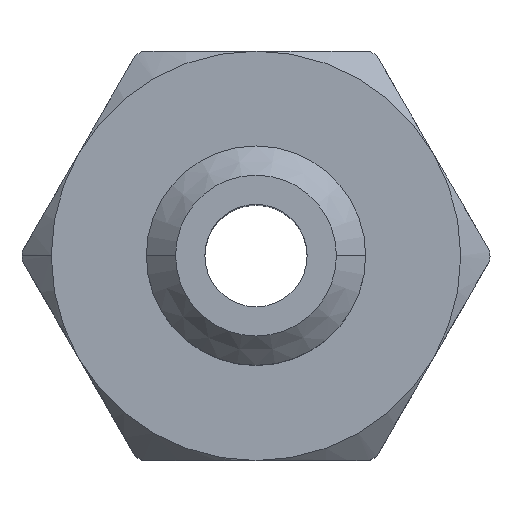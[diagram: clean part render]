
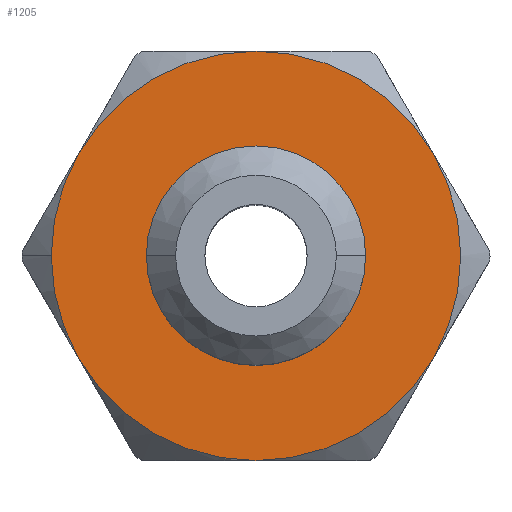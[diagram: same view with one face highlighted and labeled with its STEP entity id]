
A CAD part, top view. The second image highlights one B-rep face of the part: STEP entity #1205.
In plain terms, the highlighted planar face has unit normal (0, 0, 1).
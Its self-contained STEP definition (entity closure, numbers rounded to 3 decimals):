
#77 = AXIS2_PLACEMENT_3D ( 'NONE', #1370, #300, #118 ) ;
#92 = DIRECTION ( 'NONE',  ( 0., 0., 1. ) ) ;
#118 = DIRECTION ( 'NONE',  ( -1., 0., 0. ) ) ;
#148 = DIRECTION ( 'NONE',  ( 0., 0., -1. ) ) ;
#203 = CARTESIAN_POINT ( 'NONE',  ( 6.062, -3.5, 13. ) ) ;
#214 = CARTESIAN_POINT ( 'NONE',  ( -6.062, -3.5, 13. ) ) ;
#225 = EDGE_CURVE ( 'NONE', #471, #249, #757, .T. ) ;
#249 = VERTEX_POINT ( 'NONE', #2392 ) ;
#272 = EDGE_CURVE ( 'NONE', #1585, #727, #2329, .T. ) ;
#274 = DIRECTION ( 'NONE',  ( -1., 0., 0. ) ) ;
#300 = DIRECTION ( 'NONE',  ( 0., 0., 1. ) ) ;
#343 = CARTESIAN_POINT ( 'NONE',  ( 0., 0., 13. ) ) ;
#442 = ORIENTED_EDGE ( 'NONE', *, *, #2696, .T. ) ;
#456 = EDGE_CURVE ( 'NONE', #1601, #471, #2255, .T. ) ;
#471 = VERTEX_POINT ( 'NONE', #937 ) ;
#545 = PLANE ( 'NONE',  #1822 ) ;
#581 = ORIENTED_EDGE ( 'NONE', *, *, #1009, .T. ) ;
#621 = CARTESIAN_POINT ( 'NONE',  ( 0., 0., 13. ) ) ;
#624 = CARTESIAN_POINT ( 'NONE',  ( 0., -7., 13. ) ) ;
#701 = CIRCLE ( 'NONE', #1415, 7. ) ;
#717 = CIRCLE ( 'NONE', #2748, 7. ) ;
#726 = CARTESIAN_POINT ( 'NONE',  ( -3.75, 0., 13. ) ) ;
#727 = VERTEX_POINT ( 'NONE', #624 ) ;
#757 = CIRCLE ( 'NONE', #1968, 7. ) ;
#773 = DIRECTION ( 'NONE',  ( 0., 0., 1. ) ) ;
#793 = AXIS2_PLACEMENT_3D ( 'NONE', #343, #148, #1216 ) ;
#817 = ORIENTED_EDGE ( 'NONE', *, *, #272, .T. ) ;
#850 = DIRECTION ( 'NONE',  ( 0., 0., -1. ) ) ;
#898 = CARTESIAN_POINT ( 'NONE',  ( 3.75, 0., 13. ) ) ;
#900 = EDGE_CURVE ( 'NONE', #2004, #1601, #701, .T. ) ;
#903 = DIRECTION ( 'NONE',  ( 0., 0., 1. ) ) ;
#911 = CARTESIAN_POINT ( 'NONE',  ( -7., 0., 13. ) ) ;
#935 = VERTEX_POINT ( 'NONE', #911 ) ;
#937 = CARTESIAN_POINT ( 'NONE',  ( 0., 7., 13. ) ) ;
#951 = DIRECTION ( 'NONE',  ( -1., 0., 0. ) ) ;
#969 = CARTESIAN_POINT ( 'NONE',  ( 0., 0., 13. ) ) ;
#1009 = EDGE_CURVE ( 'NONE', #727, #2004, #2195, .T. ) ;
#1050 = EDGE_LOOP ( 'NONE', ( #817, #581, #1163, #1653, #1199, #2424, #1993 ) ) ;
#1127 = AXIS2_PLACEMENT_3D ( 'NONE', #621, #2583, #1718 ) ;
#1163 = ORIENTED_EDGE ( 'NONE', *, *, #900, .T. ) ;
#1164 = CARTESIAN_POINT ( 'NONE',  ( 6.062, 3.5, 13. ) ) ;
#1199 = ORIENTED_EDGE ( 'NONE', *, *, #225, .T. ) ;
#1205 = ADVANCED_FACE ( 'NONE', ( #1384, #1802 ), #545, .F. ) ;
#1216 = DIRECTION ( 'NONE',  ( -1., 0., 0. ) ) ;
#1246 = AXIS2_PLACEMENT_3D ( 'NONE', #1592, #773, #951 ) ;
#1285 = EDGE_CURVE ( 'NONE', #249, #935, #2578, .T. ) ;
#1368 = EDGE_LOOP ( 'NONE', ( #2251, #442 ) ) ;
#1370 = CARTESIAN_POINT ( 'NONE',  ( 0., 0., 13. ) ) ;
#1384 = FACE_OUTER_BOUND ( 'NONE', #1050, .T. ) ;
#1404 = AXIS2_PLACEMENT_3D ( 'NONE', #969, #92, #274 ) ;
#1415 = AXIS2_PLACEMENT_3D ( 'NONE', #2587, #2188, #1763 ) ;
#1537 = DIRECTION ( 'NONE',  ( -1., 0., 0. ) ) ;
#1585 = VERTEX_POINT ( 'NONE', #214 ) ;
#1592 = CARTESIAN_POINT ( 'NONE',  ( 0., 0., 13. ) ) ;
#1601 = VERTEX_POINT ( 'NONE', #1164 ) ;
#1625 = EDGE_CURVE ( 'NONE', #935, #1585, #717, .T. ) ;
#1653 = ORIENTED_EDGE ( 'NONE', *, *, #456, .T. ) ;
#1707 = DIRECTION ( 'NONE',  ( -1., 0., 0. ) ) ;
#1718 = DIRECTION ( 'NONE',  ( -1., 0., 0. ) ) ;
#1734 = DIRECTION ( 'NONE',  ( 0., 0., 1. ) ) ;
#1763 = DIRECTION ( 'NONE',  ( -1., 0., 0. ) ) ;
#1774 = DIRECTION ( 'NONE',  ( 0., 0., -1. ) ) ;
#1783 = CARTESIAN_POINT ( 'NONE',  ( 0., 0., 13. ) ) ;
#1802 = FACE_BOUND ( 'NONE', #1368, .T. ) ;
#1822 = AXIS2_PLACEMENT_3D ( 'NONE', #2012, #1774, #2214 ) ;
#1877 = EDGE_CURVE ( 'NONE', #2164, #2181, #2315, .T. ) ;
#1968 = AXIS2_PLACEMENT_3D ( 'NONE', #2347, #1734, #1537 ) ;
#1991 = DIRECTION ( 'NONE',  ( -1., 0., 0. ) ) ;
#1993 = ORIENTED_EDGE ( 'NONE', *, *, #1625, .T. ) ;
#2004 = VERTEX_POINT ( 'NONE', #203 ) ;
#2012 = CARTESIAN_POINT ( 'NONE',  ( 3.75, 0., 13. ) ) ;
#2040 = CIRCLE ( 'NONE', #2403, 3.75 ) ;
#2164 = VERTEX_POINT ( 'NONE', #726 ) ;
#2181 = VERTEX_POINT ( 'NONE', #898 ) ;
#2188 = DIRECTION ( 'NONE',  ( 0., 0., 1. ) ) ;
#2195 = CIRCLE ( 'NONE', #1246, 7. ) ;
#2214 = DIRECTION ( 'NONE',  ( -1., 0., 0. ) ) ;
#2251 = ORIENTED_EDGE ( 'NONE', *, *, #1877, .T. ) ;
#2255 = CIRCLE ( 'NONE', #1404, 7. ) ;
#2315 = CIRCLE ( 'NONE', #793, 3.75 ) ;
#2329 = CIRCLE ( 'NONE', #1127, 7. ) ;
#2347 = CARTESIAN_POINT ( 'NONE',  ( 0., 0., 13. ) ) ;
#2392 = CARTESIAN_POINT ( 'NONE',  ( -6.062, 3.5, 13. ) ) ;
#2403 = AXIS2_PLACEMENT_3D ( 'NONE', #2543, #850, #1707 ) ;
#2424 = ORIENTED_EDGE ( 'NONE', *, *, #1285, .T. ) ;
#2543 = CARTESIAN_POINT ( 'NONE',  ( 0., 0., 13. ) ) ;
#2578 = CIRCLE ( 'NONE', #77, 7. ) ;
#2583 = DIRECTION ( 'NONE',  ( 0., 0., 1. ) ) ;
#2587 = CARTESIAN_POINT ( 'NONE',  ( 0., 0., 13. ) ) ;
#2696 = EDGE_CURVE ( 'NONE', #2181, #2164, #2040, .T. ) ;
#2748 = AXIS2_PLACEMENT_3D ( 'NONE', #1783, #903, #1991 ) ;
